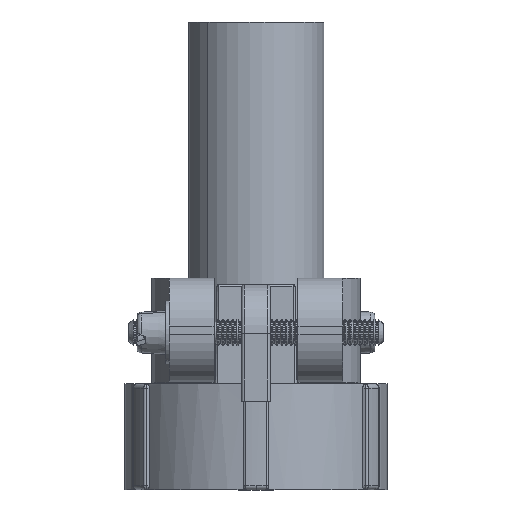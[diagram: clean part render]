
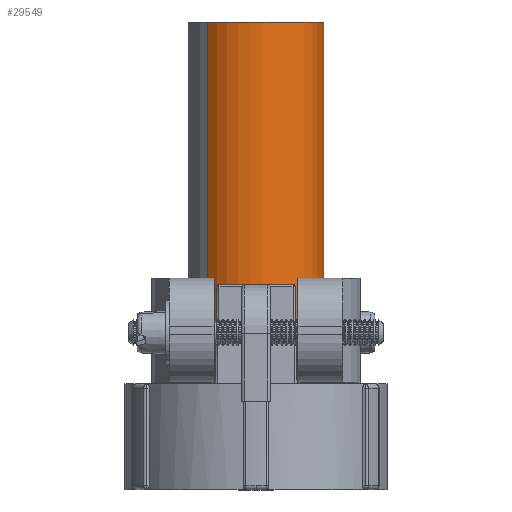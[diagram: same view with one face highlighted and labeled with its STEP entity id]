
A CAD part, front view. The second image highlights one B-rep face of the part: STEP entity #29549.
In plain terms, the highlighted cylindrical face has radius 7.8 mm (diameter 15.6 mm), a partial arc.
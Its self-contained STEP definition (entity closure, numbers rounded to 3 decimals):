
#294 = AXIS2_PLACEMENT_3D ( 'NONE', #38865, #35128, #13201 ) ;
#2617 = AXIS2_PLACEMENT_3D ( 'NONE', #21707, #55785, #7905 ) ;
#4220 = VECTOR ( 'NONE', #12914, 1000. ) ;
#6560 = EDGE_LOOP ( 'NONE', ( #23896, #9408, #35079, #33978 ) ) ;
#7905 = DIRECTION ( 'NONE',  ( -0.708, -0.707, 0. ) ) ;
#9408 = ORIENTED_EDGE ( 'NONE', *, *, #23299, .T. ) ;
#12914 = DIRECTION ( 'NONE',  ( 0., 0., -1. ) ) ;
#13201 = DIRECTION ( 'NONE',  ( -0.708, -0.707, 0. ) ) ;
#15290 = AXIS2_PLACEMENT_3D ( 'NONE', #42812, #29026, #24967 ) ;
#16668 = VERTEX_POINT ( 'NONE', #33981 ) ;
#18002 = VERTEX_POINT ( 'NONE', #29790 ) ;
#19983 = VERTEX_POINT ( 'NONE', #39983 ) ;
#21707 = CARTESIAN_POINT ( 'NONE',  ( -6.16, -1.36, 80.6 ) ) ;
#22846 = CARTESIAN_POINT ( 'NONE',  ( -0.641, 4.152, 36.5 ) ) ;
#23299 = EDGE_CURVE ( 'NONE', #16668, #19983, #41676, .T. ) ;
#23896 = ORIENTED_EDGE ( 'NONE', *, *, #50779, .F. ) ;
#24967 = DIRECTION ( 'NONE',  ( 0.708, 0.707, 0. ) ) ;
#25248 = EDGE_CURVE ( 'NONE', #19983, #50963, #27731, .T. ) ;
#27731 = CIRCLE ( 'NONE', #294, 7.8 ) ;
#29026 = DIRECTION ( 'NONE',  ( 0., 0., -1. ) ) ;
#29549 = ADVANCED_FACE ( 'NONE', ( #40573 ), #40842, .T. ) ;
#29790 = CARTESIAN_POINT ( 'NONE',  ( -0.641, 4.152, 80.6 ) ) ;
#33978 = ORIENTED_EDGE ( 'NONE', *, *, #37970, .F. ) ;
#33981 = CARTESIAN_POINT ( 'NONE',  ( -11.679, -6.872, 80.6 ) ) ;
#35079 = ORIENTED_EDGE ( 'NONE', *, *, #25248, .T. ) ;
#35128 = DIRECTION ( 'NONE',  ( 0., 0., 1. ) ) ;
#37970 = EDGE_CURVE ( 'NONE', #18002, #50963, #43665, .T. ) ;
#38865 = CARTESIAN_POINT ( 'NONE',  ( -6.16, -1.36, 36.5 ) ) ;
#39983 = CARTESIAN_POINT ( 'NONE',  ( -11.679, -6.872, 36.5 ) ) ;
#40573 = FACE_OUTER_BOUND ( 'NONE', #6560, .T. ) ;
#40842 = CYLINDRICAL_SURFACE ( 'NONE', #15290, 7.8 ) ;
#41331 = VECTOR ( 'NONE', #54127, 1000. ) ;
#41676 = LINE ( 'NONE', #45863, #41331 ) ;
#42812 = CARTESIAN_POINT ( 'NONE',  ( -6.16, -1.36, 80.6 ) ) ;
#43111 = CARTESIAN_POINT ( 'NONE',  ( -0.641, 4.152, 80.6 ) ) ;
#43665 = LINE ( 'NONE', #43111, #4220 ) ;
#45863 = CARTESIAN_POINT ( 'NONE',  ( -11.679, -6.872, 80.6 ) ) ;
#50779 = EDGE_CURVE ( 'NONE', #16668, #18002, #56597, .T. ) ;
#50963 = VERTEX_POINT ( 'NONE', #22846 ) ;
#54127 = DIRECTION ( 'NONE',  ( 0., 0., -1. ) ) ;
#55785 = DIRECTION ( 'NONE',  ( 0., 0., 1. ) ) ;
#56597 = CIRCLE ( 'NONE', #2617, 7.8 ) ;
